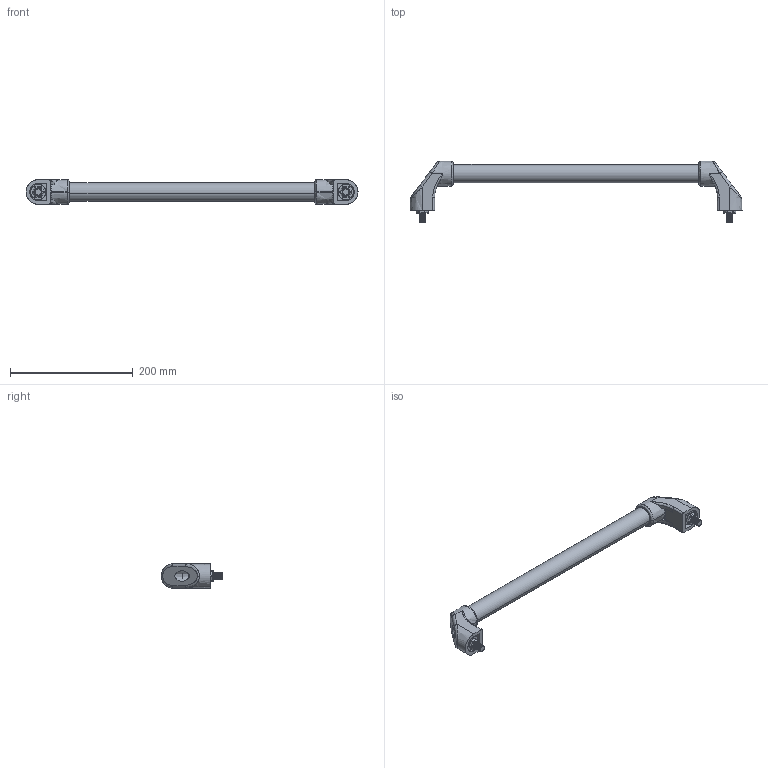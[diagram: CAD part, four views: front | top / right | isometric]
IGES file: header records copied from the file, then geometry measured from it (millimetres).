
Start section: SolidWorks IGES file using analytic representation for surfaces
Global section: file name: C:\Documents and Settings\Deathkiller\桌面\3D IGES\U型把手\MS-737-1-A\p=500.IGS; native system: SolidWorks 2006 by SolidWorks Corporation; preprocessor: SolidWorks 2006 by SolidWorks Corporation; author: Deathkiller; date: 080624.104932; units: millimetre
Bounding box: 540 x 99.5 x 40 mm (x, y, z)
Surface area: 125859.4 mm2 (no closed solid volume)
Topology: 0 solids, 0 shells, 318 faces, 6130 edges, 6114 vertices
Faces by surface type: revolution 210, bspline 108
